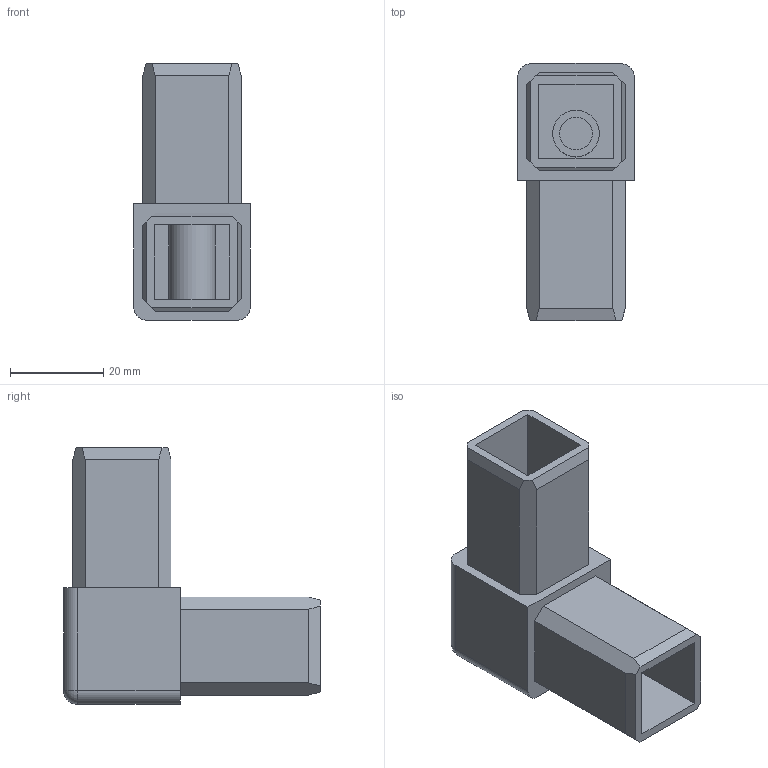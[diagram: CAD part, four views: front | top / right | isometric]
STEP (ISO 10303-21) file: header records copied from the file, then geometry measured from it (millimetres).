
FILE_DESCRIPTION (( 'STEP AP214' ), '1' );
FILE_NAME ('L15802.step', '2024-12-03T16:18:47', ( '' ), ( '' ), 'SwSTEP 2.0', 'SolidWorks 2023', '' );
FILE_SCHEMA (( 'AUTOMOTIVE_DESIGN' ));
Length unit declared in the file: millimetre
Products named in the file (1): L15802
Bounding box: 25 x 55 x 55 mm (x, y, z)
Volume: 19993.7 mm3; surface area: 14193.9 mm2
Topology: 1 solids, 1 shells, 49 faces, 127 edges, 82 vertices
Faces by surface type: plane 40, cylinder 7, sphere 2
Full cylindrical faces by diameter (mm): 7 x1, 10 x1
Entity records: 1460 total; most frequent: CARTESIAN_POINT 251, ORIENTED_EDGE 242, DIRECTION 235, EDGE_CURVE 121, VECTOR 107, LINE 107, VERTEX_POINT 80, AXIS2_PLACEMENT_3D 64
